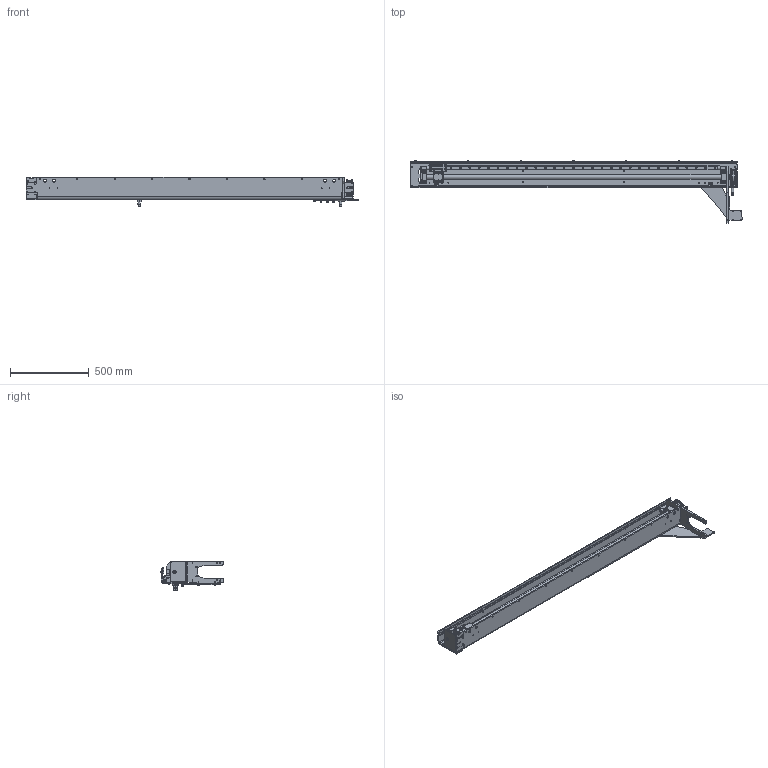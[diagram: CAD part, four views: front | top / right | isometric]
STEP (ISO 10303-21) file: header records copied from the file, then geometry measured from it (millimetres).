
FILE_DESCRIPTION(/* description */ ('BASE PROFILE'),/* implementation_level */ '2;1');
FILE_NAME(/* name */ 'C:\Users\jaccow\AppData\Local\Temp\Cadac\NetworkPub\step\FB985-950.stp',/* time_stamp */ '2018-10-24T16:46:04+02:00',/* author */ ('osr'),/* organization */ (''),/* preprocessor_version */ 'ST-DEVELOPER v16.1',/* originating_system */ 'Autodesk Inventor 2016',/* authorisation */ '');
FILE_SCHEMA (('AUTOMOTIVE_DESIGN { 1 0 10303 214 3 1 1 }'));
Products named in the file (49): FB992-101; FB1004-010; FB1007-021; PP0510-719; FB1068-098; CAA613-2511A; PP0509-067; CCE1020-0441A; FB1000-690; PP0503-886; PP0505-885-1; PP0505-885-2; PP0505-885-3; PP0505-885-4; PP0505-885-5; PP0505-885; CBA515-0281E; FB1008-111; CCA621-0281A; CCE1006-1085C; PP0493-047; FB1045-127; PP0513-719; FB1002-690; CCA817-0281A; FB1009-104; CBE819-0461B; CAE1080-1081A; FB1010-034; PP0508-155-1; PP0508-155-2; PP0508-155; PP0507-155-1; PP0507-155-2; PP0507-155; CAA1050-1082A; CCA519-0281A; FB996-101; FB998-101; CAA1060-1082A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
Assembly tree (158 placements, depth 4):
  FB985-950
    FB992-101
    FB1004-010
    FB1007-021
    PP0510-719
    FB1068-098
    CAA613-2511A
    PP0509-067  x2
    CCE1020-0441A
    FB1000-690  x2
    PP0503-886
    PP0505-885
      PP0505-885-1
      PP0505-885-2
      PP0505-885-3
      PP0505-885-4
      PP0505-885-5
    CBA515-0281E  x4
    FB1008-111  x2
    CCA621-0281A  x31
    CCE1006-1085C  x31
    PP0493-047  x7
    FB1045-127  x7
    PP0513-719
    FB1002-690  x2
    CCA817-0281A  x2
    FB1009-104
    CBE819-0461B
    CAE1080-1081A
    FB1010-034
    EPRM-PH-BASE-LEFT-EPRM8
      PP0508-155
        PP0508-155-1
        PP0508-155-2
      PP0507-155
        PP0507-155-1
        PP0507-155-2
      CAA1050-1082A  x4
      CCA519-0281A  x4
      FB996-101
      FB998-101
      CAA1060-1082A  x4
      CCA621-0281A  x4
      CCA1021-0285A  x2
      FB1011-061  x2
      FB1059-298
      CBA515-0281E  x4
    EPRM-PH-BB-MM2
      CCA844-0281A  x6
      CCA831-0281A  x2
    CCE1008-1085C  x6
Bounding box: 2111 x 396.3 x 187.5 mm (x, y, z)
Volume: 10203716.5 mm3; surface area: 2674275.3 mm2
Topology: 153 solids, 154 shells, 3606 faces, 8872 edges, 5811 vertices
Faces by surface type: plane 2262, cylinder 797, cone 265, bspline 188, torus 94
Full cylindrical faces by diameter (mm): 3.242 x4, 3.5 x4, 4 x2, 4.134 x20, 4.917 x58, 5 x12, 5.3 x4, 5.5 x4, 5.7 x2, 6 x50, 6.4 x4, 6.5 x11, 6.6 x20, 6.647 x19, 7 x35, 7.3 x2, 7.323 x1, 8 x24, 8.376 x14, 8.4 x1, 8.5 x8, 9 x18, 9.5 x14, 10 x37, 11 x35, 11.4 x1, 13 x12, 13.2 x4, 13.6 x7, 14 x6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
Entity records: 70368 total; most frequent: CARTESIAN_POINT 16595, ORIENTED_EDGE 10252, DIRECTION 10126, EDGE_CURVE 5126, VERTEX_POINT 3625, AXIS2_PLACEMENT_3D 3455, LINE 3216, VECTOR 3216
